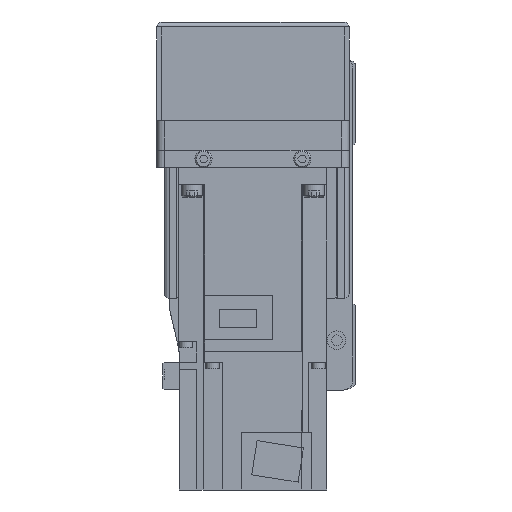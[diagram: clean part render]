
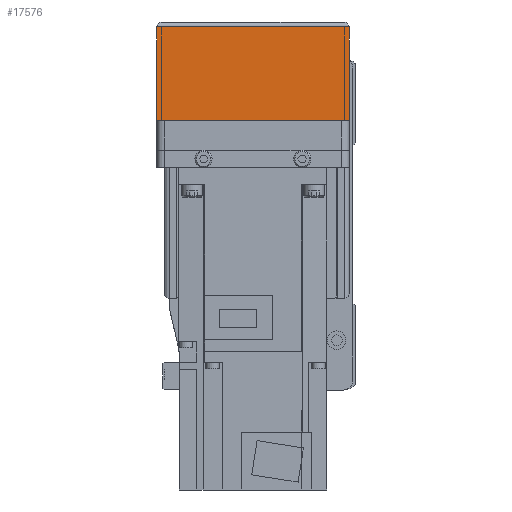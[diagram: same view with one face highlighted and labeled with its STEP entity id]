
A CAD part, left-side view. The second image highlights one B-rep face of the part: STEP entity #17576.
In plain terms, the highlighted planar face has unit normal (-1, 0, 0).
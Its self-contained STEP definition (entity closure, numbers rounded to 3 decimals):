
#2648=ORIENTED_EDGE('',*,*,#7071,.F.);
#2649=ORIENTED_EDGE('',*,*,#7072,.F.);
#2650=ORIENTED_EDGE('',*,*,#7073,.T.);
#2651=ORIENTED_EDGE('',*,*,#7074,.F.);
#7071=EDGE_CURVE('',#9381,#9372,#11194,.T.);
#7072=EDGE_CURVE('',#9398,#9381,#11195,.T.);
#7073=EDGE_CURVE('',#9398,#9399,#11196,.T.);
#7074=EDGE_CURVE('',#9372,#9399,#11197,.T.);
#9372=VERTEX_POINT('',#27006);
#9381=VERTEX_POINT('',#27024);
#9398=VERTEX_POINT('',#27072);
#9399=VERTEX_POINT('',#27074);
#11194=LINE('',#27070,#12797);
#11195=LINE('',#27071,#12798);
#11196=LINE('',#27073,#12799);
#11197=LINE('',#27075,#12800);
#12797=VECTOR('',#21676,1000.);
#12798=VECTOR('',#21677,1000.);
#12799=VECTOR('',#21678,1000.);
#12800=VECTOR('',#21679,1000.);
#14232=EDGE_LOOP('',(#2648,#2649,#2650,#2651));
#15617=FACE_BOUND('',#14232,.T.);
#16843=PLANE('',#18842);
#17576=ADVANCED_FACE('',(#15617),#16843,.F.);
#18842=AXIS2_PLACEMENT_3D('',#27069,#21674,#21675);
#21674=DIRECTION('',(1.,0.,0.));
#21675=DIRECTION('',(0.,0.,-1.));
#21676=DIRECTION('',(0.,-1.,0.));
#21677=DIRECTION('',(0.,0.,1.));
#21678=DIRECTION('',(0.,-1.,0.));
#21679=DIRECTION('',(0.,0.,-1.));
#27006=CARTESIAN_POINT('',(-158.,-39.,-12.1));
#27024=CARTESIAN_POINT('',(-158.,39.,-12.1));
#27069=CARTESIAN_POINT('',(-158.,36.,7.));
#27070=CARTESIAN_POINT('',(-158.,50.,-12.1));
#27071=CARTESIAN_POINT('',(-158.,39.,-50.));
#27072=CARTESIAN_POINT('',(-158.,39.,-50.));
#27073=CARTESIAN_POINT('',(-158.,40.,-50.));
#27074=CARTESIAN_POINT('',(-158.,-39.,-50.));
#27075=CARTESIAN_POINT('',(-158.,-39.,-12.1));
